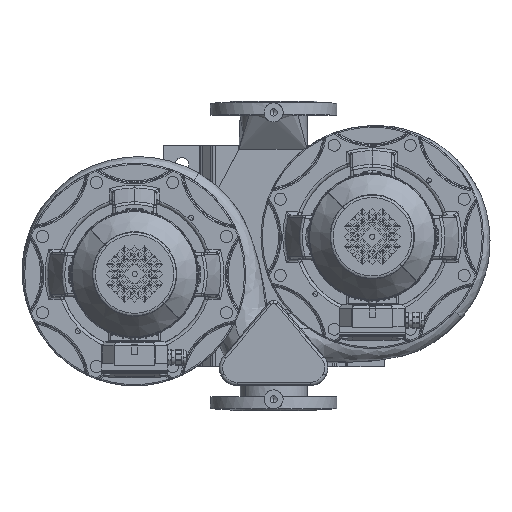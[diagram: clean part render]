
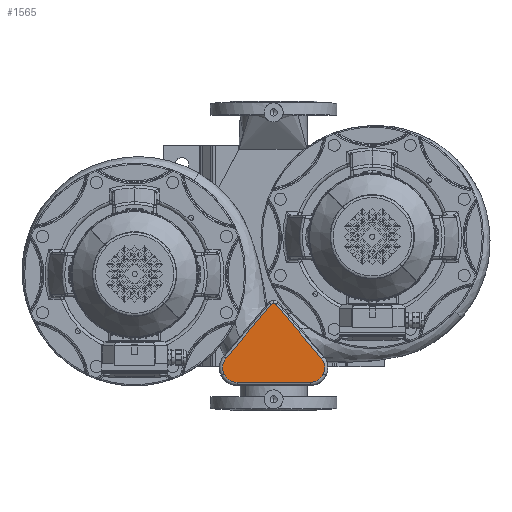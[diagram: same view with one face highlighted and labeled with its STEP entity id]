
A CAD part, top view. The second image highlights one B-rep face of the part: STEP entity #1565.
In plain terms, the highlighted planar face has unit normal (0, 0, 1).
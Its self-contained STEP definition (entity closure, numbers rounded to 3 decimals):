
#1565=ADVANCED_FACE('',(#3036),#3037,.T.);
#3036=FACE_OUTER_BOUND('',#7037,.T.);
#3037=PLANE('',#7038);
#7037=EDGE_LOOP('',(#17352,#17353,#17354,#17355,#17356,#17357,#17358,#17359,#17360));
#7038=AXIS2_PLACEMENT_3D('',#17361,#17362,#17363);
#17352=ORIENTED_EDGE('',*,*,#34797,.F.);
#17353=ORIENTED_EDGE('',*,*,#34791,.F.);
#17354=ORIENTED_EDGE('',*,*,#34805,.F.);
#17355=ORIENTED_EDGE('',*,*,#34787,.F.);
#17356=ORIENTED_EDGE('',*,*,#34781,.F.);
#17357=ORIENTED_EDGE('',*,*,#34811,.F.);
#17358=ORIENTED_EDGE('',*,*,#34777,.F.);
#17359=ORIENTED_EDGE('',*,*,#34771,.F.);
#17360=ORIENTED_EDGE('',*,*,#34816,.F.);
#17361=CARTESIAN_POINT('',(-57.895,205.0,67.0));
#17362=DIRECTION('',(0.0,0.0,1.0));
#17363=DIRECTION('',(1.0,0.0,0.0));
#34771=EDGE_CURVE('',#53757,#53760,#53761,.T.);
#34777=EDGE_CURVE('',#53760,#53770,#53771,.T.);
#34781=EDGE_CURVE('',#53774,#53777,#53778,.T.);
#34787=EDGE_CURVE('',#53777,#53787,#53788,.T.);
#34791=EDGE_CURVE('',#53791,#53794,#53795,.T.);
#34797=EDGE_CURVE('',#53794,#53804,#53805,.T.);
#34805=EDGE_CURVE('',#53787,#53791,#53815,.T.);
#34811=EDGE_CURVE('',#53770,#53774,#53822,.T.);
#34816=EDGE_CURVE('',#53804,#53757,#53827,.T.);
#53757=VERTEX_POINT('',#61973);
#53760=VERTEX_POINT('',#61976);
#53761=CIRCLE('',#61977,23.0);
#53770=VERTEX_POINT('',#61987);
#53771=LINE('',#61988,#61989);
#53774=VERTEX_POINT('',#61992);
#53777=VERTEX_POINT('',#61995);
#53778=CIRCLE('',#61996,5.0);
#53787=VERTEX_POINT('',#62006);
#53788=LINE('',#62007,#62008);
#53791=VERTEX_POINT('',#62011);
#53794=VERTEX_POINT('',#62014);
#53795=CIRCLE('',#62015,23.0);
#53804=VERTEX_POINT('',#62025);
#53805=LINE('',#62026,#62027);
#53815=CIRCLE('',#62038,23.0);
#53822=CIRCLE('',#62046,5.0);
#53827=CIRCLE('',#62052,23.0);
#61973=CARTESIAN_POINT('',(78.74,186.72,67.0));
#61976=CARTESIAN_POINT('',(75.514,162.216,67.0));
#61977=AXIS2_PLACEMENT_3D('',#75878,#75879,#75880);
#61987=CARTESIAN_POINT('',(3.83,76.786,67.0));
#61988=CARTESIAN_POINT('',(58.487,141.924,67.0));
#61989=VECTOR('',#75891,1.);
#61992=CARTESIAN_POINT('',(0.,75.0,67.0));
#61995=CARTESIAN_POINT('',(-3.83,76.786,67.0));
#61996=AXIS2_PLACEMENT_3D('',#75898,#75899,#75900);
#62006=CARTESIAN_POINT('',(-75.514,162.216,67.0));
#62007=CARTESIAN_POINT('',(-46.566,127.717,67.0));
#62008=VECTOR('',#75911,1.0);
#62011=CARTESIAN_POINT('',(-78.74,186.72,67.0));
#62014=CARTESIAN_POINT('',(-57.895,200.0,67.0));
#62015=AXIS2_PLACEMENT_3D('',#75918,#75919,#75920);
#62025=CARTESIAN_POINT('',(57.895,200.0,67.0));
#62026=CARTESIAN_POINT('',(-57.895,200.0,67.0));
#62027=VECTOR('',#75931,1.0);
#62038=AXIS2_PLACEMENT_3D('',#75945,#75946,#75947);
#62046=AXIS2_PLACEMENT_3D('',#75955,#75956,#75957);
#62052=AXIS2_PLACEMENT_3D('',#75962,#75963,#75964);
#75878=CARTESIAN_POINT('',(57.895,177.0,67.0));
#75879=DIRECTION('',(0.0,0.0,-1.0));
#75880=DIRECTION('',(0.906,0.423,0.0));
#75891=DIRECTION('',(-0.643,-0.766,0.0));
#75898=CARTESIAN_POINT('',(0.0,80.0,67.0));
#75899=DIRECTION('',(0.0,0.0,-1.0));
#75900=DIRECTION('',(0.0,-1.0,0.0));
#75911=DIRECTION('',(-0.643,0.766,0.0));
#75918=CARTESIAN_POINT('',(-57.895,177.0,67.0));
#75919=DIRECTION('',(0.0,0.0,-1.0));
#75920=DIRECTION('',(-0.906,0.423,0.0));
#75931=DIRECTION('',(1.0,0.0,0.0));
#75945=CARTESIAN_POINT('',(-57.895,177.0,67.0));
#75946=DIRECTION('',(0.0,0.0,-1.0));
#75947=DIRECTION('',(-0.906,0.423,0.0));
#75955=CARTESIAN_POINT('',(0.0,80.0,67.0));
#75956=DIRECTION('',(0.0,0.0,-1.0));
#75957=DIRECTION('',(0.0,-1.0,0.0));
#75962=CARTESIAN_POINT('',(57.895,177.0,67.0));
#75963=DIRECTION('',(0.0,0.0,-1.0));
#75964=DIRECTION('',(0.906,0.423,0.0));
